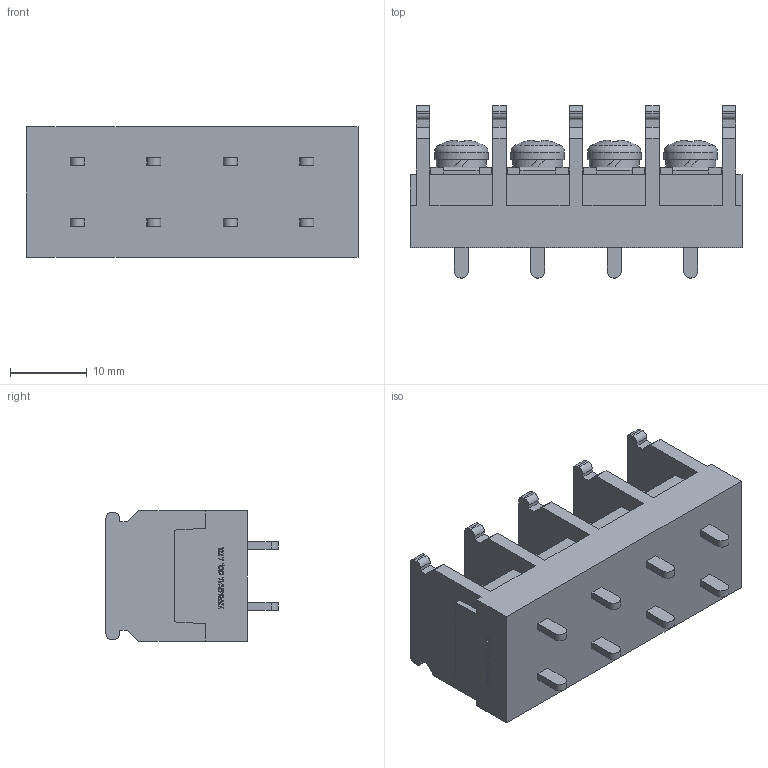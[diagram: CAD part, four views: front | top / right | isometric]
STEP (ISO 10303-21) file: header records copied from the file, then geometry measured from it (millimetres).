
FILE_DESCRIPTION(/* description */ ('Alibre Inc.'),/* implementation_level */ '2;1');
FILE_NAME(/* name */ 'export0',/* time_stamp */ '2015-10-17T15:31:54+09:00',/* author */ (''),/* organization */ (''),/* preprocessor_version */ 'ST-DEVELOPER v14',/* originating_system */ 'Alibre',/* authorisation */ '');
FILE_SCHEMA (('CONFIG_CONTROL_DESIGN'));
Length unit declared in the file: centimetre
Products named in the file (1): ID_1
Bounding box: 43.4 x 22.5 x 17 mm (x, y, z)
Volume: 8386.3 mm3; surface area: 5188.2 mm2
Topology: 1 solids, 17 shells, 696 faces, 1866 edges, 1240 vertices
Faces by surface type: plane 516, bspline 104, cylinder 48, cone 16, torus 8, sphere 4
Full cylindrical faces by diameter (mm): 4 x4, 6.5 x4, 7 x4
Entity records: 21030 total; most frequent: CARTESIAN_POINT 4807, ORIENTED_EDGE 3676, DIRECTION 2462, EDGE_CURVE 1838, VECTOR 1384, LINE 1384, VERTEX_POINT 1228, AXIS2_PLACEMENT_3D 787
